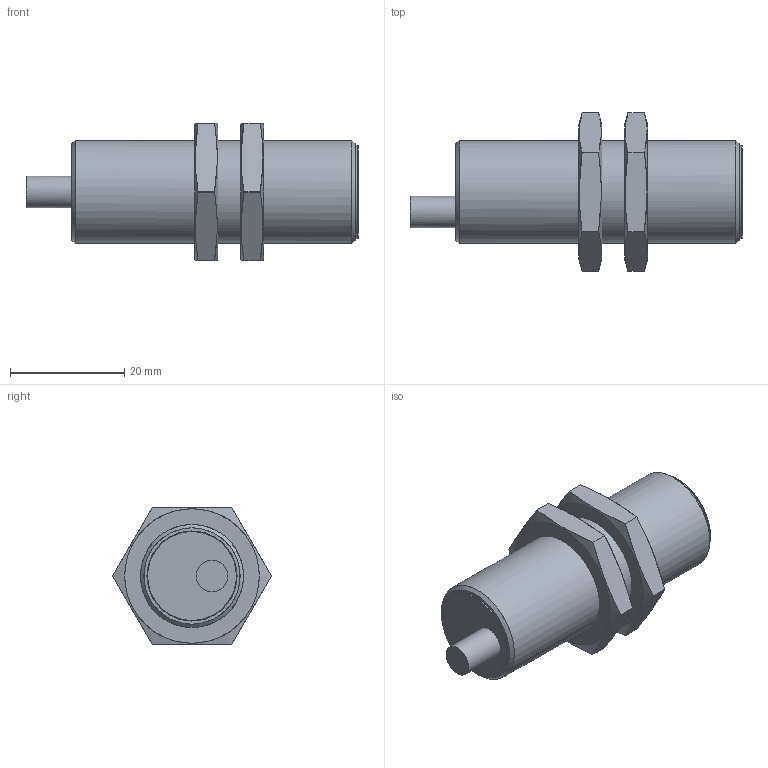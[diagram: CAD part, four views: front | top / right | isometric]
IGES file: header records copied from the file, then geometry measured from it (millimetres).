
Start section: C
Global section: file name: IR18V.Dxxx-F50.xxxx.9BCU.igs; native system: By Siemens PLM Incorporated; preprocessor: XPlus GENERIC/IGES 19.0.9; author: Author; organization: Title; date: 20180207.111138; units: millimetre
Bounding box: 58 x 27.71 x 24 mm (x, y, z)
Surface area: 10603.7 mm2 (no closed solid volume)
Topology: 0 solids, 0 shells, 294 faces, 1706 edges, 1706 vertices
Faces by surface type: bspline 294
